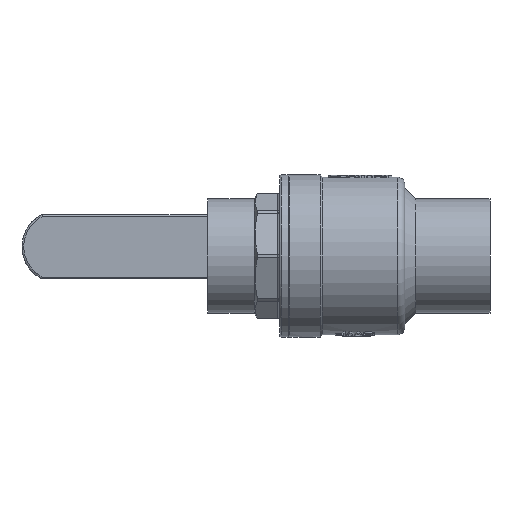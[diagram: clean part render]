
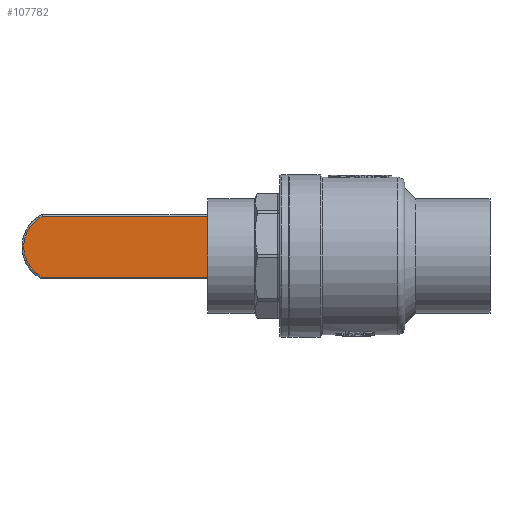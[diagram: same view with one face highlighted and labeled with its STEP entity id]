
A CAD part, front view. The second image highlights one B-rep face of the part: STEP entity #107782.
In plain terms, the highlighted planar face has unit normal (0, -1, 0).
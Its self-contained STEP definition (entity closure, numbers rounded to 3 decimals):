
#175 = CARTESIAN_POINT ( 'NONE',  ( -115.128, -5., 16.45 ) ) ;
#5416 = LINE ( 'NONE', #79899, #118541 ) ;
#7115 = CARTESIAN_POINT ( 'NONE',  ( -115.128, -5., -16.45 ) ) ;
#11563 = DIRECTION ( 'NONE',  ( 0., -1., 0. ) ) ;
#13715 = CARTESIAN_POINT ( 'NONE',  ( -115.628, -5., 16.45 ) ) ;
#14524 = DIRECTION ( 'NONE',  ( 1., 0., 0. ) ) ;
#17337 = PLANE ( 'NONE',  #68621 ) ;
#22264 = CARTESIAN_POINT ( 'NONE',  ( -10.036, -5., -16.45 ) ) ;
#25090 = ORIENTED_EDGE ( 'NONE', *, *, #102972, .T. ) ;
#28267 = VERTEX_POINT ( 'NONE', #175 ) ;
#30492 = DIRECTION ( 'NONE',  ( 0., 0., 1. ) ) ;
#34419 = AXIS2_PLACEMENT_3D ( 'NONE', #68261, #11563, #30492 ) ;
#34463 = CARTESIAN_POINT ( 'NONE',  ( -10.036, -5., 16.45 ) ) ;
#34955 = CARTESIAN_POINT ( 'NONE',  ( -115.128, -5., 16.45 ) ) ;
#43264 = ORIENTED_EDGE ( 'NONE', *, *, #117281, .T. ) ;
#43677 = DIRECTION ( 'NONE',  ( 0., 1., 0. ) ) ;
#49590 = ORIENTED_EDGE ( 'NONE', *, *, #83483, .T. ) ;
#52669 = VECTOR ( 'NONE', #61746, 1000. ) ;
#53095 = DIRECTION ( 'NONE',  ( 0., 0., 1. ) ) ;
#56050 = VERTEX_POINT ( 'NONE', #34463 ) ;
#61746 = DIRECTION ( 'NONE',  ( -1., 0., 0. ) ) ;
#62637 = FACE_OUTER_BOUND ( 'NONE', #73812, .T. ) ;
#68261 = CARTESIAN_POINT ( 'NONE',  ( -18.5, -5., 0. ) ) ;
#68621 = AXIS2_PLACEMENT_3D ( 'NONE', #101190, #43677, #53095 ) ;
#71299 = VERTEX_POINT ( 'NONE', #7115 ) ;
#73812 = EDGE_LOOP ( 'NONE', ( #43264, #25090, #87395, #49590 ) ) ;
#79899 = CARTESIAN_POINT ( 'NONE',  ( -115.628, -5., -16.45 ) ) ;
#83483 = EDGE_CURVE ( 'NONE', #93406, #56050, #108778, .T. ) ;
#83942 = VECTOR ( 'NONE', #100720, 1000. ) ;
#87395 = ORIENTED_EDGE ( 'NONE', *, *, #97354, .T. ) ;
#93406 = VERTEX_POINT ( 'NONE', #22264 ) ;
#97354 = EDGE_CURVE ( 'NONE', #71299, #93406, #5416, .T. ) ;
#98228 = LINE ( 'NONE', #13715, #52669 ) ;
#100720 = DIRECTION ( 'NONE',  ( 0., 0., -1. ) ) ;
#101190 = CARTESIAN_POINT ( 'NONE',  ( -115.628, -5., 16.45 ) ) ;
#102972 = EDGE_CURVE ( 'NONE', #28267, #71299, #111789, .T. ) ;
#107782 = ADVANCED_FACE ( 'NONE', ( #62637 ), #17337, .F. ) ;
#108778 = CIRCLE ( 'NONE', #34419, 18.5 ) ;
#111789 = LINE ( 'NONE', #34955, #83942 ) ;
#117281 = EDGE_CURVE ( 'NONE', #56050, #28267, #98228, .T. ) ;
#118541 = VECTOR ( 'NONE', #14524, 1000. ) ;
